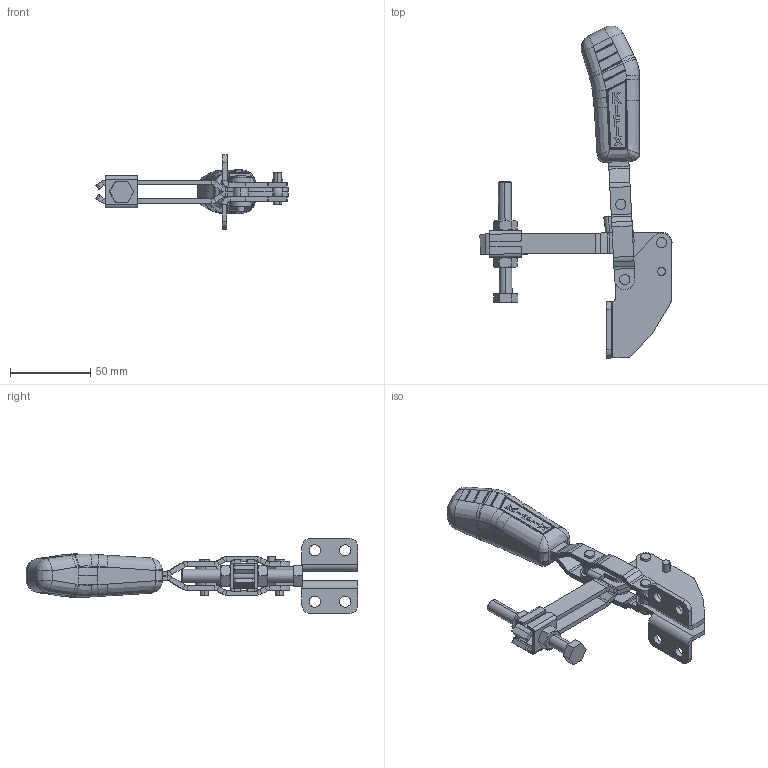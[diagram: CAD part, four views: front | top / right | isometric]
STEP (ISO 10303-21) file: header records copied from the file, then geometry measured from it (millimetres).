
FILE_DESCRIPTION (( 'STEP AP203' ), '1' );
FILE_NAME ('KF-211 DB.STEP', '2014-07-31T12:57:22', ( 'Ricardo' ), ( '' ), 'SwSTEP 2.0', 'SolidWorks 2013', '' );
FILE_SCHEMA (( 'CONFIG_CONTROL_DESIGN' ));
Length unit declared in the file: millimetre
Products named in the file (15): 06.50002; 02.12025_Direita; 04.20001; 02.12025_Esquerda; 14.10001; 03.14001_Direita; 11.50002; 03.14001_Esquerda; 12.50003; 06.50001; 07.60001; 05.20001; KF-211 DB; 01.10005; 04.10001
Assembly tree (20 placements, depth 2):
  KF-211 DB
    02.12025_Direita
    02.12025_Esquerda
    03.14001_Direita
    03.14001_Esquerda
    06.50001  x2
    05.20001  x2
    01.10005  x2
    04.10001
    06.50002  x2
    04.20001
    14.10001  x2
    11.50002  x2
    12.50003
    07.60001
Bounding box: 119.94 x 207.31 x 46.5 mm (x, y, z)
Volume: 91756.5 mm3; surface area: 51725.6 mm2
Topology: 20 solids, 20 shells, 804 faces, 1941 edges, 1192 vertices
Faces by surface type: plane 382, cylinder 251, bspline 128, cone 38, torus 5
Entity records: 24973 total; most frequent: CARTESIAN_POINT 8706, ORIENTED_EDGE 3274, DIRECTION 2617, EDGE_CURVE 1637, VERTEX_POINT 1022, AXIS2_PLACEMENT_3D 927, LINE 763, VECTOR 763
